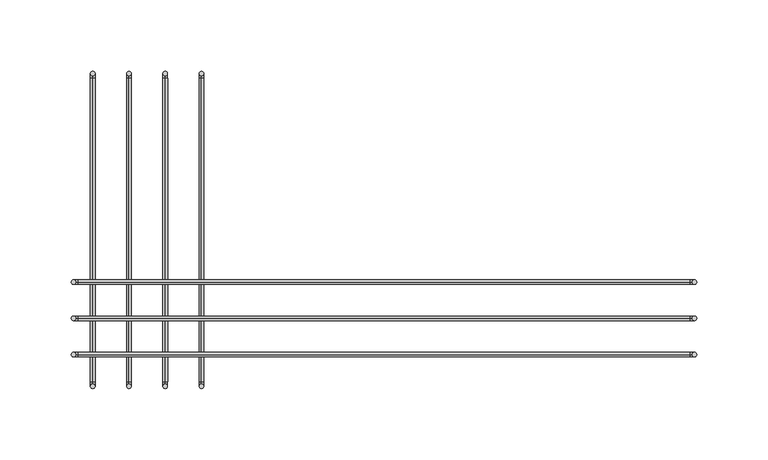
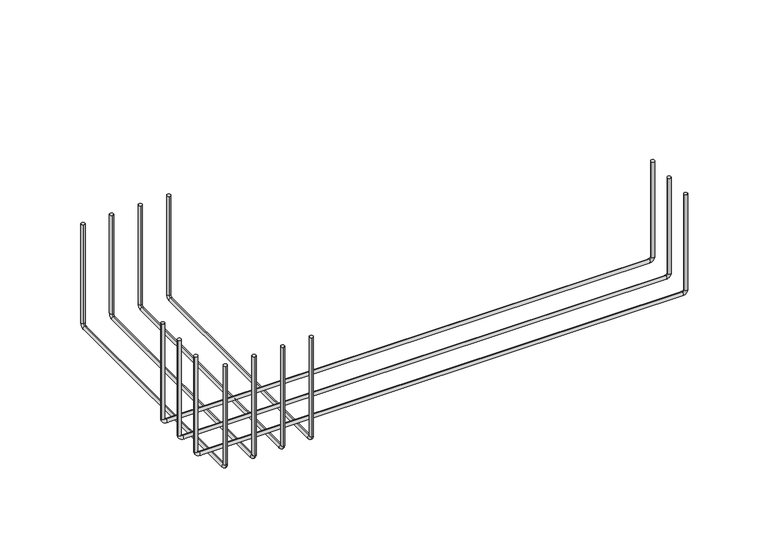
"""IFC4 building model written with IfcOpenShell, lengths in millimetres: furniture geometry."""

from ifc_helpers import new_model, si_unit, point, frame, origin, place, context, project, spatial, circle_curve, ellipse_curve, trimmed, source, transform, mapped, element, save
from ifc_brep_helpers import plane_surface, cylinder_surface, revolved_surface, advanced_brep


def furniture_0ba2adaa(model_context):
    return source(origin(), model_context, "Body", "AdvancedBrep", [
        advanced_brep(
        [(-127.88392, -152.3273724, 1694.0022), (-127.88392, -149.1523724, 1694.0022), (-127.88392, 69.9226276, 1694.0022), (-127.88392, 66.7476276, 1694.0022), (-127.88392, -152.3273724, 1601.1339034), (-127.88392, -149.1523724, 1601.1339034), (-127.88392, -147.5648724, 1599.5464034), (-127.88392, -147.5648724, 1596.3714034), (-127.88392, 65.1601276, 1596.3714034), (-127.88392, 65.1601276, 1599.5464034), (-127.88392, 66.7476276, 1601.1339034), (-127.88392, 69.9226276, 1601.1339034)],
        [
            (0, 1, circle_curve(frame((-127.88392, -150.7398724, 1694.0022), z_axis=(0.0, 0.0, 1.0), x_axis=(1.0, 0.0, 0.0)), 1.5875)),
            (1, 0, circle_curve(frame((-127.88392, -150.7398724, 1694.0022), z_axis=(0.0, 0.0, 1.0), x_axis=(1.0, 0.0, 0.0)), 1.5875)),
            (2, 3, circle_curve(frame((-127.88392, 68.3351276, 1694.0022), z_axis=(0.0, 0.0, 1.0), x_axis=(1.0, 0.0, 0.0)), 1.5875)),
            (3, 2, circle_curve(frame((-127.88392, 68.3351276, 1694.0022), z_axis=(0.0, 0.0, 1.0), x_axis=(1.0, 0.0, 0.0)), 1.5875)),
            (0, 4),
            (4, 5, circle_curve(frame((-127.88392, -150.7398724, 1601.1339034), z_axis=(0.0, 0.0, 1.0), x_axis=(1.0, 0.0, 0.0)), 1.5875)),
            (5, 1),
            (5, 4, circle_curve(frame((-127.88392, -150.7398724, 1601.1339034), z_axis=(0.0, 0.0, 1.0), x_axis=(1.0, 0.0, 0.0)), 1.5875)),
            (6, 7, circle_curve(frame((-127.88392, -147.5648724, 1597.9589034), z_axis=(0.0, 1.0, 0.0), x_axis=(1.0, 0.0, 0.0)), 1.5875)),
            (7, 8),
            (8, 9, circle_curve(frame((-127.88392, 65.1601276, 1597.9589034), z_axis=(0.0, -1.0, 0.0), x_axis=(1.0, 0.0, 0.0)), 1.5875)),
            (9, 6),
            (7, 6, circle_curve(frame((-127.88392, -147.5648724, 1597.9589034), z_axis=(0.0, 1.0, 0.0), x_axis=(1.0, 0.0, 0.0)), 1.5875)),
            (9, 8, circle_curve(frame((-127.88392, 65.1601276, 1597.9589034), z_axis=(0.0, -1.0, 0.0), x_axis=(1.0, 0.0, 0.0)), 1.5875)),
            (10, 11, circle_curve(frame((-127.88392, 68.3351276, 1601.1339034), z_axis=(0.0, 0.0, 1.0), x_axis=(1.0, 0.0, 0.0)), 1.5875)),
            (11, 2),
            (3, 10),
            (11, 10, circle_curve(frame((-127.88392, 68.3351276, 1601.1339034), z_axis=(0.0, 0.0, 1.0), x_axis=(1.0, 0.0, 0.0)), 1.5875)),
            (6, 5, circle_curve(frame((-127.88392, -147.5648724, 1601.1339034), z_axis=(-1.0, 0.0, 0.0), x_axis=(0.0, -1.0, 0.0)), 1.5875)),
            (4, 7, circle_curve(frame((-127.88392, -147.5648724, 1601.1339034), z_axis=(1.0, 0.0, 0.0), x_axis=(0.0, -1.0, 0.0)), 4.7625)),
            (10, 9, circle_curve(frame((-127.88392, 65.1601276, 1601.1339034), z_axis=(-1.0, 0.0, 0.0), x_axis=(0.0, 0.0, -1.0)), 1.5875)),
            (8, 11, circle_curve(frame((-127.88392, 65.1601276, 1601.1339034), z_axis=(1.0, 0.0, 0.0), x_axis=(0.0, 0.0, -1.0)), 4.7625)),
        ],
        [
            plane_surface(frame((-127.88392, -152.3273724, 1694.0022), z_axis=(0.0, 0.0, 1.0), x_axis=(1.0, 0.0, 0.0))),
            plane_surface(frame((-127.88392, 69.9226276, 1694.0022), z_axis=(0.0, 0.0, 1.0), x_axis=(1.0, 0.0, 0.0))),
            cylinder_surface(frame((-127.88392, -150.7398724, 1694.0022), z_axis=(0.0, 0.0, 1.0), x_axis=(1.0, 0.0, 0.0)), 1.5875),
            cylinder_surface(frame((-127.88392, -147.5648724, 1597.9589034), z_axis=(0.0, -1.0, 0.0), x_axis=(1.0, 0.0, 0.0)), 1.5875),
            cylinder_surface(frame((-127.88392, 68.3351276, 1601.1339034), z_axis=(0.0, 0.0, -1.0), x_axis=(1.0, 0.0, 0.0)), 1.5875),
            revolved_surface(trimmed(ellipse_curve(frame((-127.88392, -150.7398724, 1601.1339034), z_axis=(0.0, 0.0, 1.0), x_axis=(1.0, 0.0, 0.0)), 1.5875, 1.5875), [point((-127.88392, -152.3273724, 1601.1339034))], [point((-127.88392, -149.1523724, 1601.1339034))], True, "CARTESIAN"), (-127.88392, -147.5648724, 1601.1339034), (1.0, 0.0, 0.0)),
            revolved_surface(trimmed(ellipse_curve(frame((-127.88392, -150.7398724, 1601.1339034), z_axis=(0.0, 0.0, 1.0), x_axis=(1.0, 0.0, 0.0)), 1.5875, 1.5875), [point((-127.88392, -149.1523724, 1601.1339034))], [point((-127.88392, -152.3273724, 1601.1339034))], True, "CARTESIAN"), (-127.88392, -147.5648724, 1601.1339034), (1.0, 0.0, 0.0)),
            revolved_surface(trimmed(ellipse_curve(frame((-127.88392, 65.1601276, 1597.9589034), z_axis=(0.0, -1.0, 0.0), x_axis=(1.0, 0.0, 0.0)), 1.5875, 1.5875), [point((-127.88392, 65.1601276, 1596.3714034))], [point((-127.88392, 65.1601276, 1599.5464034))], True, "CARTESIAN"), (-127.88392, 65.1601276, 1601.1339034), (1.0, 0.0, 0.0)),
            revolved_surface(trimmed(ellipse_curve(frame((-127.88392, 65.1601276, 1597.9589034), z_axis=(0.0, -1.0, 0.0), x_axis=(1.0, 0.0, 0.0)), 1.5875, 1.5875), [point((-127.88392, 65.1601276, 1599.5464034))], [point((-127.88392, 65.1601276, 1596.3714034))], True, "CARTESIAN"), (-127.88392, 65.1601276, 1601.1339034), (1.0, 0.0, 0.0)),
        ],
        [
            (0, [[1, 2]]),
            (1, [[3, 4]]),
            (2, [[-1, 5, 6, 7]]),
            (2, [[-2, -7, 8, -5]]),
            (3, [[9, 10, 11, 12]]),
            (3, [[13, -12, 14, -10]]),
            (4, [[15, 16, -4, 17]]),
            (4, [[18, -17, -3, -16]]),
            (5, [[19, -6, 20, -9]]),
            (6, [[-20, -8, -19, -13]]),
            (7, [[21, -11, 22, -15]]),
            (8, [[-22, -14, -21, -18]]),
        ],
    ),
        advanced_brep(
        [(-153.28392, -152.3273724, 1694.0022), (-153.28392, -149.1523724, 1694.0022), (-153.28392, 69.9226276, 1694.0022), (-153.28392, 66.7476276, 1694.0022), (-153.28392, -152.3273724, 1601.1339034), (-153.28392, -149.1523724, 1601.1339034), (-153.28392, -147.5648724, 1599.5464034), (-153.28392, -147.5648724, 1596.3714034), (-153.28392, 65.1601276, 1596.3714034), (-153.28392, 65.1601276, 1599.5464034), (-153.28392, 66.7476276, 1601.1339034), (-153.28392, 69.9226276, 1601.1339034)],
        [
            (0, 1, circle_curve(frame((-153.28392, -150.7398724, 1694.0022), z_axis=(0.0, 0.0, 1.0), x_axis=(1.0, 0.0, 0.0)), 1.5875)),
            (1, 0, circle_curve(frame((-153.28392, -150.7398724, 1694.0022), z_axis=(0.0, 0.0, 1.0), x_axis=(1.0, 0.0, 0.0)), 1.5875)),
            (2, 3, circle_curve(frame((-153.28392, 68.3351276, 1694.0022), z_axis=(0.0, 0.0, 1.0), x_axis=(1.0, 0.0, 0.0)), 1.5875)),
            (3, 2, circle_curve(frame((-153.28392, 68.3351276, 1694.0022), z_axis=(0.0, 0.0, 1.0), x_axis=(1.0, 0.0, 0.0)), 1.5875)),
            (0, 4),
            (4, 5, circle_curve(frame((-153.28392, -150.7398724, 1601.1339034), z_axis=(0.0, 0.0, 1.0), x_axis=(1.0, 0.0, 0.0)), 1.5875)),
            (5, 1),
            (5, 4, circle_curve(frame((-153.28392, -150.7398724, 1601.1339034), z_axis=(0.0, 0.0, 1.0), x_axis=(1.0, 0.0, 0.0)), 1.5875)),
            (6, 7, circle_curve(frame((-153.28392, -147.5648724, 1597.9589034), z_axis=(0.0, 1.0, 0.0), x_axis=(1.0, 0.0, 0.0)), 1.5875)),
            (7, 8),
            (8, 9, circle_curve(frame((-153.28392, 65.1601276, 1597.9589034), z_axis=(0.0, -1.0, 0.0), x_axis=(1.0, 0.0, 0.0)), 1.5875)),
            (9, 6),
            (7, 6, circle_curve(frame((-153.28392, -147.5648724, 1597.9589034), z_axis=(0.0, 1.0, 0.0), x_axis=(1.0, 0.0, 0.0)), 1.5875)),
            (9, 8, circle_curve(frame((-153.28392, 65.1601276, 1597.9589034), z_axis=(0.0, -1.0, 0.0), x_axis=(1.0, 0.0, 0.0)), 1.5875)),
            (10, 11, circle_curve(frame((-153.28392, 68.3351276, 1601.1339034), z_axis=(0.0, 0.0, 1.0), x_axis=(1.0, 0.0, 0.0)), 1.5875)),
            (11, 2),
            (3, 10),
            (11, 10, circle_curve(frame((-153.28392, 68.3351276, 1601.1339034), z_axis=(0.0, 0.0, 1.0), x_axis=(1.0, 0.0, 0.0)), 1.5875)),
            (6, 5, circle_curve(frame((-153.28392, -147.5648724, 1601.1339034), z_axis=(-1.0, 0.0, 0.0), x_axis=(0.0, -1.0, 0.0)), 1.5875)),
            (4, 7, circle_curve(frame((-153.28392, -147.5648724, 1601.1339034), z_axis=(1.0, 0.0, 0.0), x_axis=(0.0, -1.0, 0.0)), 4.7625)),
            (10, 9, circle_curve(frame((-153.28392, 65.1601276, 1601.1339034), z_axis=(-1.0, 0.0, 0.0), x_axis=(0.0, 0.0, -1.0)), 1.5875)),
            (8, 11, circle_curve(frame((-153.28392, 65.1601276, 1601.1339034), z_axis=(1.0, 0.0, 0.0), x_axis=(0.0, 0.0, -1.0)), 4.7625)),
        ],
        [
            plane_surface(frame((-153.28392, -152.3273724, 1694.0022), z_axis=(0.0, 0.0, 1.0), x_axis=(1.0, 0.0, 0.0))),
            plane_surface(frame((-153.28392, 69.9226276, 1694.0022), z_axis=(0.0, 0.0, 1.0), x_axis=(1.0, 0.0, 0.0))),
            cylinder_surface(frame((-153.28392, -150.7398724, 1694.0022), z_axis=(0.0, 0.0, 1.0), x_axis=(1.0, 0.0, 0.0)), 1.5875),
            cylinder_surface(frame((-153.28392, -147.5648724, 1597.9589034), z_axis=(0.0, -1.0, 0.0), x_axis=(1.0, 0.0, 0.0)), 1.5875),
            cylinder_surface(frame((-153.28392, 68.3351276, 1601.1339034), z_axis=(0.0, 0.0, -1.0), x_axis=(1.0, 0.0, 0.0)), 1.5875),
            revolved_surface(trimmed(ellipse_curve(frame((-153.28392, -150.7398724, 1601.1339034), z_axis=(0.0, 0.0, 1.0), x_axis=(1.0, 0.0, 0.0)), 1.5875, 1.5875), [point((-153.28392, -152.3273724, 1601.1339034))], [point((-153.28392, -149.1523724, 1601.1339034))], True, "CARTESIAN"), (-153.28392, -147.5648724, 1601.1339034), (1.0, 0.0, 0.0)),
            revolved_surface(trimmed(ellipse_curve(frame((-153.28392, -150.7398724, 1601.1339034), z_axis=(0.0, 0.0, 1.0), x_axis=(1.0, 0.0, 0.0)), 1.5875, 1.5875), [point((-153.28392, -149.1523724, 1601.1339034))], [point((-153.28392, -152.3273724, 1601.1339034))], True, "CARTESIAN"), (-153.28392, -147.5648724, 1601.1339034), (1.0, 0.0, 0.0)),
            revolved_surface(trimmed(ellipse_curve(frame((-153.28392, 65.1601276, 1597.9589034), z_axis=(0.0, -1.0, 0.0), x_axis=(1.0, 0.0, 0.0)), 1.5875, 1.5875), [point((-153.28392, 65.1601276, 1596.3714034))], [point((-153.28392, 65.1601276, 1599.5464034))], True, "CARTESIAN"), (-153.28392, 65.1601276, 1601.1339034), (1.0, 0.0, 0.0)),
            revolved_surface(trimmed(ellipse_curve(frame((-153.28392, 65.1601276, 1597.9589034), z_axis=(0.0, -1.0, 0.0), x_axis=(1.0, 0.0, 0.0)), 1.5875, 1.5875), [point((-153.28392, 65.1601276, 1599.5464034))], [point((-153.28392, 65.1601276, 1596.3714034))], True, "CARTESIAN"), (-153.28392, 65.1601276, 1601.1339034), (1.0, 0.0, 0.0)),
        ],
        [
            (0, [[1, 2]]),
            (1, [[3, 4]]),
            (2, [[-1, 5, 6, 7]]),
            (2, [[-2, -7, 8, -5]]),
            (3, [[9, 10, 11, 12]]),
            (3, [[13, -12, 14, -10]]),
            (4, [[15, 16, -4, 17]]),
            (4, [[18, -17, -3, -16]]),
            (5, [[19, -6, 20, -9]]),
            (6, [[-20, -8, -19, -13]]),
            (7, [[21, -11, 22, -15]]),
            (8, [[-22, -14, -21, -18]]),
        ],
    ),
        advanced_brep(
        [(219.075, -77.7148724, 1694.0022), (215.9, -77.7148724, 1694.0022), (-219.075, -77.7148724, 1694.0022), (-215.9, -77.7148724, 1694.0022), (219.075, -77.7148724, 1604.3089034), (215.9, -77.7148724, 1604.3089034), (214.3125, -77.7148724, 1602.7214034), (214.3125, -77.7148724, 1599.5464034), (-214.3125, -77.7148724, 1599.5464034), (-214.3125, -77.7148724, 1602.7214034), (-215.9, -77.7148724, 1604.3089034), (-219.075, -77.7148724, 1604.3089034)],
        [
            (0, 1, circle_curve(frame((217.4875, -77.7148724, 1694.0022), z_axis=(0.0, 0.0, 1.0), x_axis=(0.0, 1.0, 0.0)), 1.5875)),
            (1, 0, circle_curve(frame((217.4875, -77.7148724, 1694.0022), z_axis=(0.0, 0.0, 1.0), x_axis=(0.0, 1.0, 0.0)), 1.5875)),
            (2, 3, circle_curve(frame((-217.4875, -77.7148724, 1694.0022), z_axis=(0.0, 0.0, 1.0), x_axis=(0.0, 1.0, 0.0)), 1.5875)),
            (3, 2, circle_curve(frame((-217.4875, -77.7148724, 1694.0022), z_axis=(0.0, 0.0, 1.0), x_axis=(0.0, 1.0, 0.0)), 1.5875)),
            (0, 4),
            (4, 5, circle_curve(frame((217.4875, -77.7148724, 1604.3089034), z_axis=(0.0, 0.0, 1.0), x_axis=(0.0, 1.0, 0.0)), 1.5875)),
            (5, 1),
            (5, 4, circle_curve(frame((217.4875, -77.7148724, 1604.3089034), z_axis=(0.0, 0.0, 1.0), x_axis=(0.0, 1.0, 0.0)), 1.5875)),
            (6, 7, circle_curve(frame((214.3125, -77.7148724, 1601.1339034), z_axis=(-1.0, 0.0, 0.0), x_axis=(0.0, 1.0, 0.0)), 1.5875)),
            (7, 8),
            (8, 9, circle_curve(frame((-214.3125, -77.7148724, 1601.1339034), z_axis=(1.0, 0.0, 0.0), x_axis=(0.0, 1.0, 0.0)), 1.5875)),
            (9, 6),
            (7, 6, circle_curve(frame((214.3125, -77.7148724, 1601.1339034), z_axis=(-1.0, 0.0, 0.0), x_axis=(0.0, 1.0, 0.0)), 1.5875)),
            (9, 8, circle_curve(frame((-214.3125, -77.7148724, 1601.1339034), z_axis=(1.0, 0.0, 0.0), x_axis=(0.0, 1.0, 0.0)), 1.5875)),
            (10, 11, circle_curve(frame((-217.4875, -77.7148724, 1604.3089034), z_axis=(0.0, 0.0, 1.0), x_axis=(0.0, 1.0, 0.0)), 1.5875)),
            (11, 2),
            (3, 10),
            (11, 10, circle_curve(frame((-217.4875, -77.7148724, 1604.3089034), z_axis=(0.0, 0.0, 1.0), x_axis=(0.0, 1.0, 0.0)), 1.5875)),
            (6, 5, circle_curve(frame((214.3125, -77.7148724, 1604.3089034), z_axis=(0.0, -1.0, 0.0), x_axis=(1.0, 0.0, 0.0)), 1.5875)),
            (4, 7, circle_curve(frame((214.3125, -77.7148724, 1604.3089034), z_axis=(0.0, 1.0, 0.0), x_axis=(1.0, 0.0, 0.0)), 4.7625)),
            (10, 9, circle_curve(frame((-214.3125, -77.7148724, 1604.3089034), z_axis=(0.0, -1.0, 0.0), x_axis=(0.0, 0.0, -1.0)), 1.5875)),
            (8, 11, circle_curve(frame((-214.3125, -77.7148724, 1604.3089034), z_axis=(0.0, 1.0, 0.0), x_axis=(0.0, 0.0, -1.0)), 4.7625)),
        ],
        [
            plane_surface(frame((219.075, -77.7148724, 1694.0022), z_axis=(0.0, 0.0, 1.0), x_axis=(0.0, 1.0, 0.0))),
            plane_surface(frame((-219.075, -77.7148724, 1694.0022), z_axis=(0.0, 0.0, 1.0), x_axis=(0.0, 1.0, 0.0))),
            cylinder_surface(frame((217.4875, -77.7148724, 1694.0022), z_axis=(0.0, 0.0, 1.0), x_axis=(0.0, 1.0, 0.0)), 1.5875),
            cylinder_surface(frame((214.3125, -77.7148724, 1601.1339034), z_axis=(1.0, 0.0, 0.0), x_axis=(0.0, 1.0, 0.0)), 1.5875),
            cylinder_surface(frame((-217.4875, -77.7148724, 1604.3089034), z_axis=(0.0, 0.0, -1.0), x_axis=(0.0, 1.0, 0.0)), 1.5875),
            revolved_surface(trimmed(ellipse_curve(frame((217.4875, -77.7148724, 1604.3089034), z_axis=(0.0, 0.0, 1.0), x_axis=(0.0, 1.0, 0.0)), 1.5875, 1.5875), [point((219.075, -77.7148724, 1604.3089034))], [point((215.9, -77.7148724, 1604.3089034))], True, "CARTESIAN"), (214.3125, -77.7148724, 1604.3089034), (0.0, 1.0, 0.0)),
            revolved_surface(trimmed(ellipse_curve(frame((217.4875, -77.7148724, 1604.3089034), z_axis=(0.0, 0.0, 1.0), x_axis=(0.0, 1.0, 0.0)), 1.5875, 1.5875), [point((215.9, -77.7148724, 1604.3089034))], [point((219.075, -77.7148724, 1604.3089034))], True, "CARTESIAN"), (214.3125, -77.7148724, 1604.3089034), (0.0, 1.0, 0.0)),
            revolved_surface(trimmed(ellipse_curve(frame((-214.3125, -77.7148724, 1601.1339034), z_axis=(1.0, 0.0, 0.0), x_axis=(0.0, 1.0, 0.0)), 1.5875, 1.5875), [point((-214.3125, -77.7148724, 1599.5464034))], [point((-214.3125, -77.7148724, 1602.7214034))], True, "CARTESIAN"), (-214.3125, -77.7148724, 1604.3089034), (0.0, 1.0, 0.0)),
            revolved_surface(trimmed(ellipse_curve(frame((-214.3125, -77.7148724, 1601.1339034), z_axis=(1.0, 0.0, 0.0), x_axis=(0.0, 1.0, 0.0)), 1.5875, 1.5875), [point((-214.3125, -77.7148724, 1602.7214034))], [point((-214.3125, -77.7148724, 1599.5464034))], True, "CARTESIAN"), (-214.3125, -77.7148724, 1604.3089034), (0.0, 1.0, 0.0)),
        ],
        [
            (0, [[1, 2]]),
            (1, [[3, 4]]),
            (2, [[-1, 5, 6, 7]]),
            (2, [[-2, -7, 8, -5]]),
            (3, [[9, 10, 11, 12]]),
            (3, [[13, -12, 14, -10]]),
            (4, [[15, 16, -4, 17]]),
            (4, [[18, -17, -3, -16]]),
            (5, [[19, -6, 20, -9]]),
            (6, [[-20, -8, -19, -13]]),
            (7, [[21, -11, 22, -15]]),
            (8, [[-22, -14, -21, -18]]),
        ],
    ),
        advanced_brep(
        [(219.075, -103.1148724, 1694.0022), (215.9, -103.1148724, 1694.0022), (-219.075, -103.1148724, 1694.0022), (-215.9, -103.1148724, 1694.0022), (219.075, -103.1148724, 1604.3089034), (215.9, -103.1148724, 1604.3089034), (214.3125, -103.1148724, 1602.7214034), (214.3125, -103.1148724, 1599.5464034), (-214.3125, -103.1148724, 1599.5464034), (-214.3125, -103.1148724, 1602.7214034), (-215.9, -103.1148724, 1604.3089034), (-219.075, -103.1148724, 1604.3089034)],
        [
            (0, 1, circle_curve(frame((217.4875, -103.1148724, 1694.0022), z_axis=(0.0, 0.0, 1.0), x_axis=(0.0, 1.0, 0.0)), 1.5875)),
            (1, 0, circle_curve(frame((217.4875, -103.1148724, 1694.0022), z_axis=(0.0, 0.0, 1.0), x_axis=(0.0, 1.0, 0.0)), 1.5875)),
            (2, 3, circle_curve(frame((-217.4875, -103.1148724, 1694.0022), z_axis=(0.0, 0.0, 1.0), x_axis=(0.0, 1.0, 0.0)), 1.5875)),
            (3, 2, circle_curve(frame((-217.4875, -103.1148724, 1694.0022), z_axis=(0.0, 0.0, 1.0), x_axis=(0.0, 1.0, 0.0)), 1.5875)),
            (0, 4),
            (4, 5, circle_curve(frame((217.4875, -103.1148724, 1604.3089034), z_axis=(0.0, 0.0, 1.0), x_axis=(0.0, 1.0, 0.0)), 1.5875)),
            (5, 1),
            (5, 4, circle_curve(frame((217.4875, -103.1148724, 1604.3089034), z_axis=(0.0, 0.0, 1.0), x_axis=(0.0, 1.0, 0.0)), 1.5875)),
            (6, 7, circle_curve(frame((214.3125, -103.1148724, 1601.1339034), z_axis=(-1.0, 0.0, 0.0), x_axis=(0.0, 1.0, 0.0)), 1.5875)),
            (7, 8),
            (8, 9, circle_curve(frame((-214.3125, -103.1148724, 1601.1339034), z_axis=(1.0, 0.0, 0.0), x_axis=(0.0, 1.0, 0.0)), 1.5875)),
            (9, 6),
            (7, 6, circle_curve(frame((214.3125, -103.1148724, 1601.1339034), z_axis=(-1.0, 0.0, 0.0), x_axis=(0.0, 1.0, 0.0)), 1.5875)),
            (9, 8, circle_curve(frame((-214.3125, -103.1148724, 1601.1339034), z_axis=(1.0, 0.0, 0.0), x_axis=(0.0, 1.0, 0.0)), 1.5875)),
            (10, 11, circle_curve(frame((-217.4875, -103.1148724, 1604.3089034), z_axis=(0.0, 0.0, 1.0), x_axis=(0.0, 1.0, 0.0)), 1.5875)),
            (11, 2),
            (3, 10),
            (11, 10, circle_curve(frame((-217.4875, -103.1148724, 1604.3089034), z_axis=(0.0, 0.0, 1.0), x_axis=(0.0, 1.0, 0.0)), 1.5875)),
            (6, 5, circle_curve(frame((214.3125, -103.1148724, 1604.3089034), z_axis=(0.0, -1.0, 0.0), x_axis=(1.0, 0.0, 0.0)), 1.5875)),
            (4, 7, circle_curve(frame((214.3125, -103.1148724, 1604.3089034), z_axis=(0.0, 1.0, 0.0), x_axis=(1.0, 0.0, 0.0)), 4.7625)),
            (10, 9, circle_curve(frame((-214.3125, -103.1148724, 1604.3089034), z_axis=(0.0, -1.0, 0.0), x_axis=(0.0, 0.0, -1.0)), 1.5875)),
            (8, 11, circle_curve(frame((-214.3125, -103.1148724, 1604.3089034), z_axis=(0.0, 1.0, 0.0), x_axis=(0.0, 0.0, -1.0)), 4.7625)),
        ],
        [
            plane_surface(frame((219.075, -103.1148724, 1694.0022), z_axis=(0.0, 0.0, 1.0), x_axis=(0.0, 1.0, 0.0))),
            plane_surface(frame((-219.075, -103.1148724, 1694.0022), z_axis=(0.0, 0.0, 1.0), x_axis=(0.0, 1.0, 0.0))),
            cylinder_surface(frame((217.4875, -103.1148724, 1694.0022), z_axis=(0.0, 0.0, 1.0), x_axis=(0.0, 1.0, 0.0)), 1.5875),
            cylinder_surface(frame((214.3125, -103.1148724, 1601.1339034), z_axis=(1.0, 0.0, 0.0), x_axis=(0.0, 1.0, 0.0)), 1.5875),
            cylinder_surface(frame((-217.4875, -103.1148724, 1604.3089034), z_axis=(0.0, 0.0, -1.0), x_axis=(0.0, 1.0, 0.0)), 1.5875),
            revolved_surface(trimmed(ellipse_curve(frame((217.4875, -103.1148724, 1604.3089034), z_axis=(0.0, 0.0, 1.0), x_axis=(0.0, 1.0, 0.0)), 1.5875, 1.5875), [point((219.075, -103.1148724, 1604.3089034))], [point((215.9, -103.1148724, 1604.3089034))], True, "CARTESIAN"), (214.3125, -103.1148724, 1604.3089034), (0.0, 1.0, 0.0)),
            revolved_surface(trimmed(ellipse_curve(frame((217.4875, -103.1148724, 1604.3089034), z_axis=(0.0, 0.0, 1.0), x_axis=(0.0, 1.0, 0.0)), 1.5875, 1.5875), [point((215.9, -103.1148724, 1604.3089034))], [point((219.075, -103.1148724, 1604.3089034))], True, "CARTESIAN"), (214.3125, -103.1148724, 1604.3089034), (0.0, 1.0, 0.0)),
            revolved_surface(trimmed(ellipse_curve(frame((-214.3125, -103.1148724, 1601.1339034), z_axis=(1.0, 0.0, 0.0), x_axis=(0.0, 1.0, 0.0)), 1.5875, 1.5875), [point((-214.3125, -103.1148724, 1599.5464034))], [point((-214.3125, -103.1148724, 1602.7214034))], True, "CARTESIAN"), (-214.3125, -103.1148724, 1604.3089034), (0.0, 1.0, 0.0)),
            revolved_surface(trimmed(ellipse_curve(frame((-214.3125, -103.1148724, 1601.1339034), z_axis=(1.0, 0.0, 0.0), x_axis=(0.0, 1.0, 0.0)), 1.5875, 1.5875), [point((-214.3125, -103.1148724, 1602.7214034))], [point((-214.3125, -103.1148724, 1599.5464034))], True, "CARTESIAN"), (-214.3125, -103.1148724, 1604.3089034), (0.0, 1.0, 0.0)),
        ],
        [
            (0, [[1, 2]]),
            (1, [[3, 4]]),
            (2, [[-1, 5, 6, 7]]),
            (2, [[-2, -7, 8, -5]]),
            (3, [[9, 10, 11, 12]]),
            (3, [[13, -12, 14, -10]]),
            (4, [[15, 16, -4, 17]]),
            (4, [[18, -17, -3, -16]]),
            (5, [[19, -6, 20, -9]]),
            (6, [[-20, -8, -19, -13]]),
            (7, [[21, -11, 22, -15]]),
            (8, [[-22, -14, -21, -18]]),
        ],
    ),
        advanced_brep(
        [(219.075, -128.5148724, 1694.0022), (215.9, -128.5148724, 1694.0022), (-219.075, -128.5148724, 1694.0022), (-215.9, -128.5148724, 1694.0022), (219.075, -128.5148724, 1604.3089034), (215.9, -128.5148724, 1604.3089034), (214.3125, -128.5148724, 1602.7214034), (214.3125, -128.5148724, 1599.5464034), (-214.3125, -128.5148724, 1599.5464034), (-214.3125, -128.5148724, 1602.7214034), (-215.9, -128.5148724, 1604.3089034), (-219.075, -128.5148724, 1604.3089034)],
        [
            (0, 1, circle_curve(frame((217.4875, -128.5148724, 1694.0022), z_axis=(0.0, 0.0, 1.0), x_axis=(0.0, 1.0, 0.0)), 1.5875)),
            (1, 0, circle_curve(frame((217.4875, -128.5148724, 1694.0022), z_axis=(0.0, 0.0, 1.0), x_axis=(0.0, 1.0, 0.0)), 1.5875)),
            (2, 3, circle_curve(frame((-217.4875, -128.5148724, 1694.0022), z_axis=(0.0, 0.0, 1.0), x_axis=(0.0, 1.0, 0.0)), 1.5875)),
            (3, 2, circle_curve(frame((-217.4875, -128.5148724, 1694.0022), z_axis=(0.0, 0.0, 1.0), x_axis=(0.0, 1.0, 0.0)), 1.5875)),
            (0, 4),
            (4, 5, circle_curve(frame((217.4875, -128.5148724, 1604.3089034), z_axis=(0.0, 0.0, 1.0), x_axis=(0.0, 1.0, 0.0)), 1.5875)),
            (5, 1),
            (5, 4, circle_curve(frame((217.4875, -128.5148724, 1604.3089034), z_axis=(0.0, 0.0, 1.0), x_axis=(0.0, 1.0, 0.0)), 1.5875)),
            (6, 7, circle_curve(frame((214.3125, -128.5148724, 1601.1339034), z_axis=(-1.0, 0.0, 0.0), x_axis=(0.0, 1.0, 0.0)), 1.5875)),
            (7, 8),
            (8, 9, circle_curve(frame((-214.3125, -128.5148724, 1601.1339034), z_axis=(1.0, 0.0, 0.0), x_axis=(0.0, 1.0, 0.0)), 1.5875)),
            (9, 6),
            (7, 6, circle_curve(frame((214.3125, -128.5148724, 1601.1339034), z_axis=(-1.0, 0.0, 0.0), x_axis=(0.0, 1.0, 0.0)), 1.5875)),
            (9, 8, circle_curve(frame((-214.3125, -128.5148724, 1601.1339034), z_axis=(1.0, 0.0, 0.0), x_axis=(0.0, 1.0, 0.0)), 1.5875)),
            (10, 11, circle_curve(frame((-217.4875, -128.5148724, 1604.3089034), z_axis=(0.0, 0.0, 1.0), x_axis=(0.0, 1.0, 0.0)), 1.5875)),
            (11, 2),
            (3, 10),
            (11, 10, circle_curve(frame((-217.4875, -128.5148724, 1604.3089034), z_axis=(0.0, 0.0, 1.0), x_axis=(0.0, 1.0, 0.0)), 1.5875)),
            (6, 5, circle_curve(frame((214.3125, -128.5148724, 1604.3089034), z_axis=(0.0, -1.0, 0.0), x_axis=(1.0, 0.0, 0.0)), 1.5875)),
            (4, 7, circle_curve(frame((214.3125, -128.5148724, 1604.3089034), z_axis=(0.0, 1.0, 0.0), x_axis=(1.0, 0.0, 0.0)), 4.7625)),
            (10, 9, circle_curve(frame((-214.3125, -128.5148724, 1604.3089034), z_axis=(0.0, -1.0, 0.0), x_axis=(0.0, 0.0, -1.0)), 1.5875)),
            (8, 11, circle_curve(frame((-214.3125, -128.5148724, 1604.3089034), z_axis=(0.0, 1.0, 0.0), x_axis=(0.0, 0.0, -1.0)), 4.7625)),
        ],
        [
            plane_surface(frame((219.075, -128.5148724, 1694.0022), z_axis=(0.0, 0.0, 1.0), x_axis=(0.0, 1.0, 0.0))),
            plane_surface(frame((-219.075, -128.5148724, 1694.0022), z_axis=(0.0, 0.0, 1.0), x_axis=(0.0, 1.0, 0.0))),
            cylinder_surface(frame((217.4875, -128.5148724, 1694.0022), z_axis=(0.0, 0.0, 1.0), x_axis=(0.0, 1.0, 0.0)), 1.5875),
            cylinder_surface(frame((214.3125, -128.5148724, 1601.1339034), z_axis=(1.0, 0.0, 0.0), x_axis=(0.0, 1.0, 0.0)), 1.5875),
            cylinder_surface(frame((-217.4875, -128.5148724, 1604.3089034), z_axis=(0.0, 0.0, -1.0), x_axis=(0.0, 1.0, 0.0)), 1.5875),
            revolved_surface(trimmed(ellipse_curve(frame((217.4875, -128.5148724, 1604.3089034), z_axis=(0.0, 0.0, 1.0), x_axis=(0.0, 1.0, 0.0)), 1.5875, 1.5875), [point((219.075, -128.5148724, 1604.3089034))], [point((215.9, -128.5148724, 1604.3089034))], True, "CARTESIAN"), (214.3125, -128.5148724, 1604.3089034), (0.0, 1.0, 0.0)),
            revolved_surface(trimmed(ellipse_curve(frame((217.4875, -128.5148724, 1604.3089034), z_axis=(0.0, 0.0, 1.0), x_axis=(0.0, 1.0, 0.0)), 1.5875, 1.5875), [point((215.9, -128.5148724, 1604.3089034))], [point((219.075, -128.5148724, 1604.3089034))], True, "CARTESIAN"), (214.3125, -128.5148724, 1604.3089034), (0.0, 1.0, 0.0)),
            revolved_surface(trimmed(ellipse_curve(frame((-214.3125, -128.5148724, 1601.1339034), z_axis=(1.0, 0.0, 0.0), x_axis=(0.0, 1.0, 0.0)), 1.5875, 1.5875), [point((-214.3125, -128.5148724, 1599.5464034))], [point((-214.3125, -128.5148724, 1602.7214034))], True, "CARTESIAN"), (-214.3125, -128.5148724, 1604.3089034), (0.0, 1.0, 0.0)),
            revolved_surface(trimmed(ellipse_curve(frame((-214.3125, -128.5148724, 1601.1339034), z_axis=(1.0, 0.0, 0.0), x_axis=(0.0, 1.0, 0.0)), 1.5875, 1.5875), [point((-214.3125, -128.5148724, 1602.7214034))], [point((-214.3125, -128.5148724, 1599.5464034))], True, "CARTESIAN"), (-214.3125, -128.5148724, 1604.3089034), (0.0, 1.0, 0.0)),
        ],
        [
            (0, [[1, 2]]),
            (1, [[3, 4]]),
            (2, [[-1, 5, 6, 7]]),
            (2, [[-2, -7, 8, -5]]),
            (3, [[9, 10, 11, 12]]),
            (3, [[13, -12, 14, -10]]),
            (4, [[15, 16, -4, 17]]),
            (4, [[18, -17, -3, -16]]),
            (5, [[19, -6, 20, -9]]),
            (6, [[-20, -8, -19, -13]]),
            (7, [[21, -11, 22, -15]]),
            (8, [[-22, -14, -21, -18]]),
        ],
    ),
        advanced_brep(
        [(-178.68392, -152.3273724, 1694.0022), (-178.68392, -149.1523724, 1694.0022), (-178.68392, 69.9226276, 1694.0022), (-178.68392, 66.7476276, 1694.0022), (-178.68392, -152.3273724, 1601.1339034), (-178.68392, -149.1523724, 1601.1339034), (-178.68392, -147.5648724, 1599.5464034), (-178.68392, -147.5648724, 1596.3714034), (-178.68392, 65.1601276, 1596.3714034), (-178.68392, 65.1601276, 1599.5464034), (-178.68392, 66.7476276, 1601.1339034), (-178.68392, 69.9226276, 1601.1339034)],
        [
            (0, 1, circle_curve(frame((-178.68392, -150.7398724, 1694.0022), z_axis=(0.0, 0.0, 1.0), x_axis=(1.0, 0.0, 0.0)), 1.5875)),
            (1, 0, circle_curve(frame((-178.68392, -150.7398724, 1694.0022), z_axis=(0.0, 0.0, 1.0), x_axis=(1.0, 0.0, 0.0)), 1.5875)),
            (2, 3, circle_curve(frame((-178.68392, 68.3351276, 1694.0022), z_axis=(0.0, 0.0, 1.0), x_axis=(1.0, 0.0, 0.0)), 1.5875)),
            (3, 2, circle_curve(frame((-178.68392, 68.3351276, 1694.0022), z_axis=(0.0, 0.0, 1.0), x_axis=(1.0, 0.0, 0.0)), 1.5875)),
            (0, 4),
            (4, 5, circle_curve(frame((-178.68392, -150.7398724, 1601.1339034), z_axis=(0.0, 0.0, 1.0), x_axis=(1.0, 0.0, 0.0)), 1.5875)),
            (5, 1),
            (5, 4, circle_curve(frame((-178.68392, -150.7398724, 1601.1339034), z_axis=(0.0, 0.0, 1.0), x_axis=(1.0, 0.0, 0.0)), 1.5875)),
            (6, 7, circle_curve(frame((-178.68392, -147.5648724, 1597.9589034), z_axis=(0.0, 1.0, 0.0), x_axis=(1.0, 0.0, 0.0)), 1.5875)),
            (7, 8),
            (8, 9, circle_curve(frame((-178.68392, 65.1601276, 1597.9589034), z_axis=(0.0, -1.0, 0.0), x_axis=(1.0, 0.0, 0.0)), 1.5875)),
            (9, 6),
            (7, 6, circle_curve(frame((-178.68392, -147.5648724, 1597.9589034), z_axis=(0.0, 1.0, 0.0), x_axis=(1.0, 0.0, 0.0)), 1.5875)),
            (9, 8, circle_curve(frame((-178.68392, 65.1601276, 1597.9589034), z_axis=(0.0, -1.0, 0.0), x_axis=(1.0, 0.0, 0.0)), 1.5875)),
            (10, 11, circle_curve(frame((-178.68392, 68.3351276, 1601.1339034), z_axis=(0.0, 0.0, 1.0), x_axis=(1.0, 0.0, 0.0)), 1.5875)),
            (11, 2),
            (3, 10),
            (11, 10, circle_curve(frame((-178.68392, 68.3351276, 1601.1339034), z_axis=(0.0, 0.0, 1.0), x_axis=(1.0, 0.0, 0.0)), 1.5875)),
            (6, 5, circle_curve(frame((-178.68392, -147.5648724, 1601.1339034), z_axis=(-1.0, 0.0, 0.0), x_axis=(0.0, -1.0, 0.0)), 1.5875)),
            (4, 7, circle_curve(frame((-178.68392, -147.5648724, 1601.1339034), z_axis=(1.0, 0.0, 0.0), x_axis=(0.0, -1.0, 0.0)), 4.7625)),
            (10, 9, circle_curve(frame((-178.68392, 65.1601276, 1601.1339034), z_axis=(-1.0, 0.0, 0.0), x_axis=(0.0, 0.0, -1.0)), 1.5875)),
            (8, 11, circle_curve(frame((-178.68392, 65.1601276, 1601.1339034), z_axis=(1.0, 0.0, 0.0), x_axis=(0.0, 0.0, -1.0)), 4.7625)),
        ],
        [
            plane_surface(frame((-178.68392, -152.3273724, 1694.0022), z_axis=(0.0, 0.0, 1.0), x_axis=(1.0, 0.0, 0.0))),
            plane_surface(frame((-178.68392, 69.9226276, 1694.0022), z_axis=(0.0, 0.0, 1.0), x_axis=(1.0, 0.0, 0.0))),
            cylinder_surface(frame((-178.68392, -150.7398724, 1694.0022), z_axis=(0.0, 0.0, 1.0), x_axis=(1.0, 0.0, 0.0)), 1.5875),
            cylinder_surface(frame((-178.68392, -147.5648724, 1597.9589034), z_axis=(0.0, -1.0, 0.0), x_axis=(1.0, 0.0, 0.0)), 1.5875),
            cylinder_surface(frame((-178.68392, 68.3351276, 1601.1339034), z_axis=(0.0, 0.0, -1.0), x_axis=(1.0, 0.0, 0.0)), 1.5875),
            revolved_surface(trimmed(ellipse_curve(frame((-178.68392, -150.7398724, 1601.1339034), z_axis=(0.0, 0.0, 1.0), x_axis=(1.0, 0.0, 0.0)), 1.5875, 1.5875), [point((-178.68392, -152.3273724, 1601.1339034))], [point((-178.68392, -149.1523724, 1601.1339034))], True, "CARTESIAN"), (-178.68392, -147.5648724, 1601.1339034), (1.0, 0.0, 0.0)),
            revolved_surface(trimmed(ellipse_curve(frame((-178.68392, -150.7398724, 1601.1339034), z_axis=(0.0, 0.0, 1.0), x_axis=(1.0, 0.0, 0.0)), 1.5875, 1.5875), [point((-178.68392, -149.1523724, 1601.1339034))], [point((-178.68392, -152.3273724, 1601.1339034))], True, "CARTESIAN"), (-178.68392, -147.5648724, 1601.1339034), (1.0, 0.0, 0.0)),
            revolved_surface(trimmed(ellipse_curve(frame((-178.68392, 65.1601276, 1597.9589034), z_axis=(0.0, -1.0, 0.0), x_axis=(1.0, 0.0, 0.0)), 1.5875, 1.5875), [point((-178.68392, 65.1601276, 1596.3714034))], [point((-178.68392, 65.1601276, 1599.5464034))], True, "CARTESIAN"), (-178.68392, 65.1601276, 1601.1339034), (1.0, 0.0, 0.0)),
            revolved_surface(trimmed(ellipse_curve(frame((-178.68392, 65.1601276, 1597.9589034), z_axis=(0.0, -1.0, 0.0), x_axis=(1.0, 0.0, 0.0)), 1.5875, 1.5875), [point((-178.68392, 65.1601276, 1599.5464034))], [point((-178.68392, 65.1601276, 1596.3714034))], True, "CARTESIAN"), (-178.68392, 65.1601276, 1601.1339034), (1.0, 0.0, 0.0)),
        ],
        [
            (0, [[1, 2]]),
            (1, [[3, 4]]),
            (2, [[-1, 5, 6, 7]]),
            (2, [[-2, -7, 8, -5]]),
            (3, [[9, 10, 11, 12]]),
            (3, [[13, -12, 14, -10]]),
            (4, [[15, 16, -4, 17]]),
            (4, [[18, -17, -3, -16]]),
            (5, [[19, -6, 20, -9]]),
            (6, [[-20, -8, -19, -13]]),
            (7, [[21, -11, 22, -15]]),
            (8, [[-22, -14, -21, -18]]),
        ],
    ),
        advanced_brep(
        [(-204.08392, -152.3273724, 1694.0022), (-204.08392, -149.1523724, 1694.0022), (-204.08392, 69.9226276, 1694.0022), (-204.08392, 66.7476276, 1694.0022), (-204.08392, -152.3273724, 1601.1339034), (-204.08392, -149.1523724, 1601.1339034), (-204.08392, -147.5648724, 1599.5464034), (-204.08392, -147.5648724, 1596.3714034), (-204.08392, 65.1601276, 1596.3714034), (-204.08392, 65.1601276, 1599.5464034), (-204.08392, 66.7476276, 1601.1339034), (-204.08392, 69.9226276, 1601.1339034)],
        [
            (0, 1, circle_curve(frame((-204.08392, -150.7398724, 1694.0022), z_axis=(0.0, 0.0, 1.0), x_axis=(1.0, 0.0, 0.0)), 1.5875)),
            (1, 0, circle_curve(frame((-204.08392, -150.7398724, 1694.0022), z_axis=(0.0, 0.0, 1.0), x_axis=(1.0, 0.0, 0.0)), 1.5875)),
            (2, 3, circle_curve(frame((-204.08392, 68.3351276, 1694.0022), z_axis=(0.0, 0.0, 1.0), x_axis=(1.0, 0.0, 0.0)), 1.5875)),
            (3, 2, circle_curve(frame((-204.08392, 68.3351276, 1694.0022), z_axis=(0.0, 0.0, 1.0), x_axis=(1.0, 0.0, 0.0)), 1.5875)),
            (0, 4),
            (4, 5, circle_curve(frame((-204.08392, -150.7398724, 1601.1339034), z_axis=(0.0, 0.0, 1.0), x_axis=(1.0, 0.0, 0.0)), 1.5875)),
            (5, 1),
            (5, 4, circle_curve(frame((-204.08392, -150.7398724, 1601.1339034), z_axis=(0.0, 0.0, 1.0), x_axis=(1.0, 0.0, 0.0)), 1.5875)),
            (6, 7, circle_curve(frame((-204.08392, -147.5648724, 1597.9589034), z_axis=(0.0, 1.0, 0.0), x_axis=(1.0, 0.0, 0.0)), 1.5875)),
            (7, 8),
            (8, 9, circle_curve(frame((-204.08392, 65.1601276, 1597.9589034), z_axis=(0.0, -1.0, 0.0), x_axis=(1.0, 0.0, 0.0)), 1.5875)),
            (9, 6),
            (7, 6, circle_curve(frame((-204.08392, -147.5648724, 1597.9589034), z_axis=(0.0, 1.0, 0.0), x_axis=(1.0, 0.0, 0.0)), 1.5875)),
            (9, 8, circle_curve(frame((-204.08392, 65.1601276, 1597.9589034), z_axis=(0.0, -1.0, 0.0), x_axis=(1.0, 0.0, 0.0)), 1.5875)),
            (10, 11, circle_curve(frame((-204.08392, 68.3351276, 1601.1339034), z_axis=(0.0, 0.0, 1.0), x_axis=(1.0, 0.0, 0.0)), 1.5875)),
            (11, 2),
            (3, 10),
            (11, 10, circle_curve(frame((-204.08392, 68.3351276, 1601.1339034), z_axis=(0.0, 0.0, 1.0), x_axis=(1.0, 0.0, 0.0)), 1.5875)),
            (6, 5, circle_curve(frame((-204.08392, -147.5648724, 1601.1339034), z_axis=(-1.0, 0.0, 0.0), x_axis=(0.0, -1.0, 0.0)), 1.5875)),
            (4, 7, circle_curve(frame((-204.08392, -147.5648724, 1601.1339034), z_axis=(1.0, 0.0, 0.0), x_axis=(0.0, -1.0, 0.0)), 4.7625)),
            (10, 9, circle_curve(frame((-204.08392, 65.1601276, 1601.1339034), z_axis=(-1.0, 0.0, 0.0), x_axis=(0.0, 0.0, -1.0)), 1.5875)),
            (8, 11, circle_curve(frame((-204.08392, 65.1601276, 1601.1339034), z_axis=(1.0, 0.0, 0.0), x_axis=(0.0, 0.0, -1.0)), 4.7625)),
        ],
        [
            plane_surface(frame((-204.08392, -152.3273724, 1694.0022), z_axis=(0.0, 0.0, 1.0), x_axis=(1.0, 0.0, 0.0))),
            plane_surface(frame((-204.08392, 69.9226276, 1694.0022), z_axis=(0.0, 0.0, 1.0), x_axis=(1.0, 0.0, 0.0))),
            cylinder_surface(frame((-204.08392, -150.7398724, 1694.0022), z_axis=(0.0, 0.0, 1.0), x_axis=(1.0, 0.0, 0.0)), 1.5875),
            cylinder_surface(frame((-204.08392, -147.5648724, 1597.9589034), z_axis=(0.0, -1.0, 0.0), x_axis=(1.0, 0.0, 0.0)), 1.5875),
            cylinder_surface(frame((-204.08392, 68.3351276, 1601.1339034), z_axis=(0.0, 0.0, -1.0), x_axis=(1.0, 0.0, 0.0)), 1.5875),
            revolved_surface(trimmed(ellipse_curve(frame((-204.08392, -150.7398724, 1601.1339034), z_axis=(0.0, 0.0, 1.0), x_axis=(1.0, 0.0, 0.0)), 1.5875, 1.5875), [point((-204.08392, -152.3273724, 1601.1339034))], [point((-204.08392, -149.1523724, 1601.1339034))], True, "CARTESIAN"), (-204.08392, -147.5648724, 1601.1339034), (1.0, 0.0, 0.0)),
            revolved_surface(trimmed(ellipse_curve(frame((-204.08392, -150.7398724, 1601.1339034), z_axis=(0.0, 0.0, 1.0), x_axis=(1.0, 0.0, 0.0)), 1.5875, 1.5875), [point((-204.08392, -149.1523724, 1601.1339034))], [point((-204.08392, -152.3273724, 1601.1339034))], True, "CARTESIAN"), (-204.08392, -147.5648724, 1601.1339034), (1.0, 0.0, 0.0)),
            revolved_surface(trimmed(ellipse_curve(frame((-204.08392, 65.1601276, 1597.9589034), z_axis=(0.0, -1.0, 0.0), x_axis=(1.0, 0.0, 0.0)), 1.5875, 1.5875), [point((-204.08392, 65.1601276, 1596.3714034))], [point((-204.08392, 65.1601276, 1599.5464034))], True, "CARTESIAN"), (-204.08392, 65.1601276, 1601.1339034), (1.0, 0.0, 0.0)),
            revolved_surface(trimmed(ellipse_curve(frame((-204.08392, 65.1601276, 1597.9589034), z_axis=(0.0, -1.0, 0.0), x_axis=(1.0, 0.0, 0.0)), 1.5875, 1.5875), [point((-204.08392, 65.1601276, 1599.5464034))], [point((-204.08392, 65.1601276, 1596.3714034))], True, "CARTESIAN"), (-204.08392, 65.1601276, 1601.1339034), (1.0, 0.0, 0.0)),
        ],
        [
            (0, [[1, 2]]),
            (1, [[3, 4]]),
            (2, [[-1, 5, 6, 7]]),
            (2, [[-2, -7, 8, -5]]),
            (3, [[9, 10, 11, 12]]),
            (3, [[13, -12, 14, -10]]),
            (4, [[15, 16, -4, 17]]),
            (4, [[18, -17, -3, -16]]),
            (5, [[19, -6, 20, -9]]),
            (6, [[-20, -8, -19, -13]]),
            (7, [[21, -11, 22, -15]]),
            (8, [[-22, -14, -21, -18]]),
        ],
    ),
    ])


if __name__ == "__main__":
    model = new_model("IFC4")
    model_context = context("Model", 3, world=origin())
    ifc_project = project(units=[si_unit("LENGTHUNIT", "METRE", prefix="MILLI")], contexts=[model_context])
    site = spatial("IfcSite", under=ifc_project)
    building = spatial("IfcBuilding", under=site)
    placement = place(None, origin())
    furniture_shape = furniture_0ba2adaa(model_context)
    element("IfcFurniture", 1, ObjectType="HermanMiller_Carts_CT720_SupplyBasket : 5\"H x 9\"D x 18\"W Supply Basket", at=placement, inside=building, context=model_context, shape_type="MappedRepresentation", body=[
        mapped(furniture_shape, transform((0.0, 0.0, 0.0), x_axis=(1.0, 0.0, 0.0), y_axis=(0.0, 1.0, 0.0), z_axis=(0.0, 0.0, 1.0))),
    ])
    save(model, "model.ifc")
